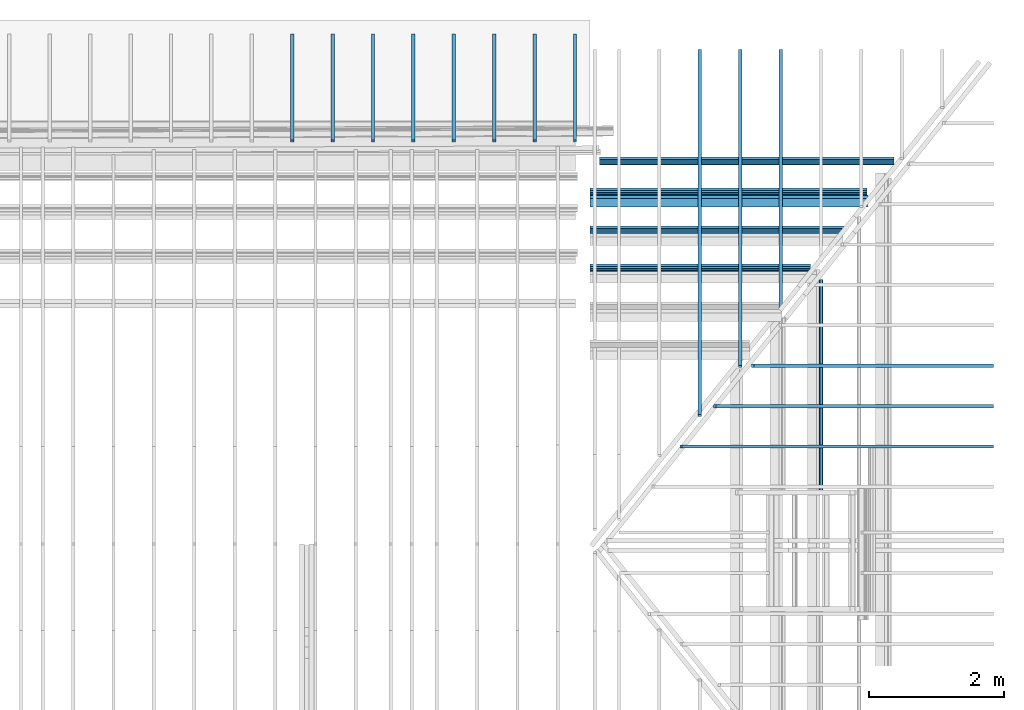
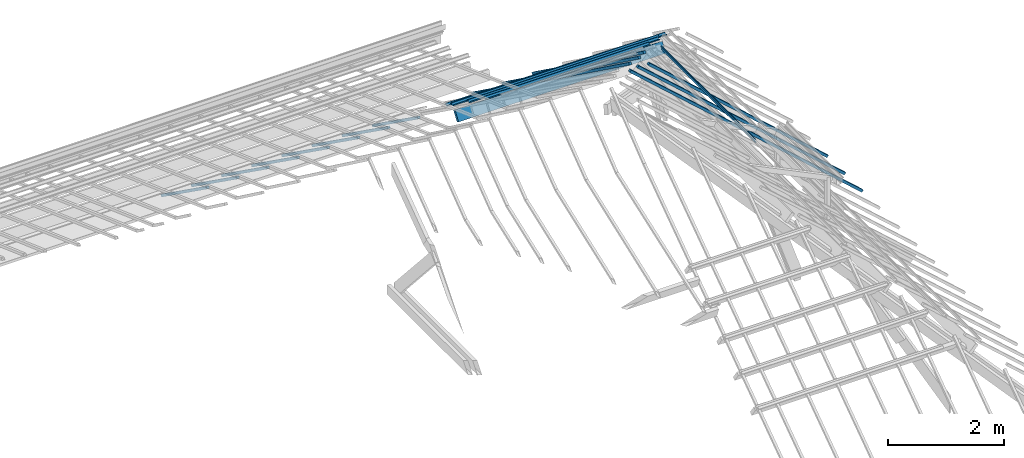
# One storey, part 15 of 18: 20 beams.
"""IFC2X3 building model written with IfcOpenShell, lengths in centimetres."""

from ifc_helpers import new_model, entity, si_unit, converted_unit, direction, frame, frame_2d, origin, place, context, subcontext, project, spatial, polyline, circle_curve, parameter, trimmed, segment, composite_curve, rectangle, outline, extrude, material, type_object, element, save


model = new_model("IFC2X3")

# Units and contexts
model_context = context("Model", 3, precision=0.001, world=frame((0.0, 0.0, 13090.0)), true_north=direction((6.123233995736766e-17, 1.0)))
body_context = subcontext(model_context, "Body", "Model", "MODEL_VIEW")
ifc_project = project(units=[si_unit("LENGTHUNIT", "METRE", prefix="CENTI"), si_unit("AREAUNIT", "SQUARE_METRE"), si_unit("VOLUMEUNIT", "CUBIC_METRE"), converted_unit("PLANEANGLEUNIT", "DEGREE", entity("IfcPlaneAngleMeasure", 0.017453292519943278), si_unit("PLANEANGLEUNIT", "RADIAN"), dimensions=[0, 0, 0, 0, 0, 0, 0])], contexts=[model_context])

# Site, building, storey
site_placement = place(None, origin())
site = spatial("IfcSite", under=ifc_project, at=site_placement, Name="Default", CompositionType="ELEMENT")
building_placement = place(site_placement, origin())
building = spatial("IfcBuilding", under=site, at=building_placement, Name="e 39 logements et 22 maisons relais", CompositionType="ELEMENT")
storey_placement = place(building_placement, frame((0.0, 0.0, 610.0)))
storey = spatial("IfcBuildingStorey", under=building, at=storey_placement, Name="R+2", CompositionType="ELEMENT", Elevation=609.9999999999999)

# Beams
ifc_material_1 = material(Name="Bois - Bois de construction de dimensions courantes")
beam_type_1 = type_object("IfcBeamType", Name="Poutre - Bois de construction de dimensions courantes:70 220", PredefinedType="BEAM")
beam_1_placement = place(storey_placement, frame((286.6348077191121, 494.96321085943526, -98.96422045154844)))
element("IfcBeam", 1, at=beam_1_placement, inside=storey, type_object=beam_type_1, material=ifc_material_1, Name="Poutre - Bois de construction de dimensions courantes:70 220", ObjectType="Poutre - Bois de construction de dimensions courantes:70 220", context=body_context, shape_type="SweptSolid", body=[
    extrude(rectangle(XDim=21.999999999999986, YDim=7.000000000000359, at=frame_2d((-4.218847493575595e-15, -1.3589129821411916e-13), x_axis=(0.0, 1.0))), frame((321.05529287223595, -6.309340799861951, -9.010672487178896), z_axis=(1.0, 0.0, 0.0), x_axis=(0.0, -0.8191520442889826, 0.5735764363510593)), (0.0, 0.0, 1.0), 412.6634002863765),
])
ifc_material_2 = material(Name="neuf")
beam_type_2 = type_object("IfcBeamType", Name="panne z:panne z", PredefinedType="BEAM")
beam_2_placement = place(storey_placement, frame((286.63480771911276, 447.28723734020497, -48.88615636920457)))
element("IfcBeam", 2, at=beam_2_placement, inside=storey, type_object=beam_type_2, material=ifc_material_2, Name="panne z:panne z", ObjectType="panne z:panne z", context=body_context, shape_type="SweptSolid", body=[
    extrude(outline(composite_curve([segment(polyline([(-4.599999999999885, -3.0), (-0.29999999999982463, -3.0)]), True, "CONTINUOUS"), segment(trimmed(circle_curve(frame_2d((-0.29999999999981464, -2.600000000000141), x_axis=(0.0, -1.0)), 0.3999999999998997), [parameter(0.0)], [parameter(90.00000000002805)], True, "PARAMETER"), True, "CONTINUOUS"), segment(polyline([(0.10000000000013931, -2.6000000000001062), (0.10000000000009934, 2.599999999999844)]), True, "CONTINUOUS"), segment(trimmed(circle_curve(frame_2d((0.3000000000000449, 2.599999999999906), x_axis=(-1.0, 0.0)), 0.2000000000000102), [parameter(270.00000000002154)], [parameter(0.0)], True, "PARAMETER"), False, "CONTINUOUS"), segment(polyline([(0.3000000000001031, 2.7999999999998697), (4.600000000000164, 2.799999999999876)]), True, "CONTINUOUS"), segment(trimmed(circle_curve(frame_2d((4.6, 2.59999999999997), x_axis=(0.0, 1.0)), 0.20000000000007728), [parameter(270.00000000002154)], [parameter(0.0)], True, "PARAMETER"), False, "CONTINUOUS"), segment(polyline([(4.800000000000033, 2.600000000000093), (4.800000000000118, 1.0)]), True, "CONTINUOUS"), segment(polyline([(4.800000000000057, 1.0), (5.0, 1.0)]), True, "CONTINUOUS"), segment(polyline([(5.0, 1.0), (5.0, 2.599999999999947)]), True, "CONTINUOUS"), segment(trimmed(circle_curve(frame_2d((4.60000000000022, 2.600000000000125), x_axis=(1.0, 0.0)), 0.39999999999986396), [parameter(0.0)], [parameter(90.00000000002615)], True, "PARAMETER"), True, "CONTINUOUS"), segment(polyline([(4.600000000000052, 3.0), (0.30000000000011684, 3.0)]), True, "CONTINUOUS"), segment(trimmed(circle_curve(frame_2d((0.2999999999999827, 2.5999999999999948), x_axis=(0.0, 1.0)), 0.3999999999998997), [parameter(0.0)], [parameter(90.00000000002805)], True, "PARAMETER"), True, "CONTINUOUS"), segment(polyline([(-0.10000000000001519, 2.5999999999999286), (-0.0999999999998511, -2.600000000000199)]), True, "CONTINUOUS"), segment(trimmed(circle_curve(frame_2d((-0.2999999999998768, -2.600000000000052), x_axis=(1.0, 0.0)), 0.2000000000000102), [parameter(270.00000000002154)], [parameter(0.0)], True, "PARAMETER"), False, "CONTINUOUS"), segment(polyline([(-0.299999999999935, -2.800000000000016), (-4.599999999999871, -2.8000000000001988)]), True, "CONTINUOUS"), segment(trimmed(circle_curve(frame_2d((-4.5999999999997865, -2.600000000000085), x_axis=(0.0, -1.0)), 0.20000000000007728), [parameter(270.00000000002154)], [parameter(0.0)], True, "PARAMETER"), False, "CONTINUOUS"), segment(polyline([(-4.79999999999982, -2.600000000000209), (-4.799999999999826, -1.0)]), True, "CONTINUOUS"), segment(polyline([(-4.799999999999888, -1.0), (-5.0, -1.0)]), True, "CONTINUOUS"), segment(polyline([(-5.0, -1.0), (-5.0, -2.6000000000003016)]), True, "CONTINUOUS"), segment(trimmed(circle_curve(frame_2d((-4.600000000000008, -2.60000000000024), x_axis=(-1.0, 0.0)), 0.39999999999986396), [parameter(0.0)], [parameter(90.00000000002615)], True, "PARAMETER"), True, "CONTINUOUS")], self_intersect=False)), frame((321.0552928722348, -1.538580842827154, -2.197321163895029), z_axis=(1.0, 0.0, 0.0), x_axis=(0.0, -0.8191520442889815, 0.5735764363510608)), (0.0, 0.0, 1.0), 378.0883845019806),
])
beam_3_placement = place(storey_placement, frame((286.63480771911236, 391.38355386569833, -8.510046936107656)))
element("IfcBeam", 3, at=beam_3_placement, inside=storey, type_object=beam_type_2, material=ifc_material_2, Name="panne z:panne z", ObjectType="panne z:panne z", context=body_context, shape_type="SweptSolid", body=[
    extrude(outline(composite_curve([segment(polyline([(-4.599999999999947, -3.0), (-0.2999999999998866, -3.0)]), True, "CONTINUOUS"), segment(trimmed(circle_curve(frame_2d((-0.29999999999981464, -2.6000000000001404), x_axis=(0.0, -1.0)), 0.3999999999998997), [parameter(0.0)], [parameter(90.00000000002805)], True, "PARAMETER"), True, "CONTINUOUS"), segment(polyline([(0.10000000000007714, -2.6000000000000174), (0.10000000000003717, 2.599999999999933)]), True, "CONTINUOUS"), segment(trimmed(circle_curve(frame_2d((0.3000000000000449, 2.5999999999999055), x_axis=(-1.0, 0.0)), 0.2000000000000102), [parameter(270.00000000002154)], [parameter(0.0)], True, "PARAMETER"), False, "CONTINUOUS"), segment(polyline([(0.3000000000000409, 2.799999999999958), (4.600000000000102, 2.7999999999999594)]), True, "CONTINUOUS"), segment(trimmed(circle_curve(frame_2d((4.6, 2.599999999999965), x_axis=(0.0, 1.0)), 0.20000000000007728), [parameter(270.00000000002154)], [parameter(0.0)], True, "PARAMETER"), False, "CONTINUOUS"), segment(polyline([(4.7999999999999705, 2.6000000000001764), (4.800000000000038, 1.0)]), True, "CONTINUOUS"), segment(polyline([(4.7999999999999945, 1.0), (5.0, 1.0)]), True, "CONTINUOUS"), segment(polyline([(5.0, 1.0), (5.0, 2.600000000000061)]), True, "CONTINUOUS"), segment(trimmed(circle_curve(frame_2d((4.60000000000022, 2.6000000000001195), x_axis=(1.0, 0.0)), 0.39999999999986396), [parameter(0.0)], [parameter(90.00000000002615)], True, "PARAMETER"), True, "CONTINUOUS"), segment(polyline([(4.599999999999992, 3.0), (0.30000000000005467, 3.0)]), True, "CONTINUOUS"), segment(trimmed(circle_curve(frame_2d((0.2999999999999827, 2.5999999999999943), x_axis=(0.0, 1.0)), 0.3999999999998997), [parameter(0.0)], [parameter(90.00000000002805)], True, "PARAMETER"), True, "CONTINUOUS"), segment(polyline([(-0.10000000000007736, 2.600000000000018), (-0.09999999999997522, -2.6000000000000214)]), True, "CONTINUOUS"), segment(trimmed(circle_curve(frame_2d((-0.2999999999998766, -2.600000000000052), x_axis=(1.0, 0.0)), 0.2000000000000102), [parameter(270.00000000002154)], [parameter(0.0)], True, "PARAMETER"), False, "CONTINUOUS"), segment(polyline([(-0.29999999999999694, -2.799999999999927), (-4.599999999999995, -2.8000000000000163)]), True, "CONTINUOUS"), segment(trimmed(circle_curve(frame_2d((-4.5999999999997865, -2.60000000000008), x_axis=(0.0, -1.0)), 0.20000000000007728), [parameter(270.00000000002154)], [parameter(0.0)], True, "PARAMETER"), False, "CONTINUOUS"), segment(polyline([(-4.799999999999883, -2.6000000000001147), (-4.7999999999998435, -1.0)]), True, "CONTINUOUS"), segment(polyline([(-4.799999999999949, -1.0), (-5.0, -1.0)]), True, "CONTINUOUS"), segment(polyline([(-5.0, -1.0), (-5.0, -2.6000000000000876)]), True, "CONTINUOUS"), segment(trimmed(circle_curve(frame_2d((-4.600000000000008, -2.6000000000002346), x_axis=(-1.0, 0.0)), 0.39999999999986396), [parameter(0.0)], [parameter(90.00000000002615)], True, "PARAMETER"), True, "CONTINUOUS")], self_intersect=False)), frame((321.0552928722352, -1.5385808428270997, -2.197321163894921), z_axis=(1.0, 0.0, 0.0), x_axis=(0.0, -0.8191520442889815, 0.5735764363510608)), (0.0, 0.0, 1.0), 327.6106052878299),
])
beam_4_placement = place(storey_placement, frame((286.63480771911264, 504.2030453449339, -89.99326684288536)))
element("IfcBeam", 4, at=beam_4_placement, inside=storey, type_object=beam_type_2, material=ifc_material_2, Name="panne z:panne z", ObjectType="panne z:panne z", context=body_context, shape_type="SweptSolid", body=[
    extrude(outline(composite_curve([segment(polyline([(-4.599999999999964, -3.0), (-0.29999999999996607, -3.0)]), True, "CONTINUOUS"), segment(trimmed(circle_curve(frame_2d((-0.2999999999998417, -2.5999999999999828), x_axis=(0.0, -1.0)), 0.39999999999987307), [parameter(0.0)], [parameter(90.00000000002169)], True, "PARAMETER"), True, "CONTINUOUS"), segment(polyline([(0.10000000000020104, -2.599999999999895), (0.10000000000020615, 2.6000000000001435)]), True, "CONTINUOUS"), segment(trimmed(circle_curve(frame_2d((0.30000000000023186, 2.5999999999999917), x_axis=(-1.0, 0.0)), 0.20000000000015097), [parameter(270.0000000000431)], [parameter(0.0)], True, "PARAMETER"), False, "CONTINUOUS"), segment(polyline([(0.30000000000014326, 2.7999999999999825), (4.600000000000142, 2.799999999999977)]), True, "CONTINUOUS"), segment(trimmed(circle_curve(frame_2d((4.60000000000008, 2.600000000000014), x_axis=(0.0, 1.0)), 0.20000000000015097), [parameter(270.0000000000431)], [parameter(0.0)], True, "PARAMETER"), False, "CONTINUOUS"), segment(polyline([(4.800000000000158, 2.6000000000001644), (4.800000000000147, 1.0)]), True, "CONTINUOUS"), segment(polyline([(4.800000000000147, 1.0), (5.0, 1.0)]), True, "CONTINUOUS"), segment(polyline([(5.0, 1.0), (5.0, 2.6000000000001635)]), True, "CONTINUOUS"), segment(trimmed(circle_curve(frame_2d((4.600000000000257, 2.600000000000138), x_axis=(1.0, 0.0)), 0.399999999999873), [parameter(0.0)], [parameter(90.00000000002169)], True, "PARAMETER"), True, "CONTINUOUS"), segment(polyline([(4.600000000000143, 3.0), (0.30000000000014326, 3.0)]), True, "CONTINUOUS"), segment(trimmed(circle_curve(frame_2d((0.3000000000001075, 2.6000000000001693), x_axis=(0.0, 1.0)), 0.39999999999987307), [parameter(0.0)], [parameter(90.00000000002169)], True, "PARAMETER"), True, "CONTINUOUS"), segment(polyline([(-0.09999999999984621, 2.600000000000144), (-0.09999999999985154, -2.599999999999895)]), True, "CONTINUOUS"), segment(trimmed(circle_curve(frame_2d((-0.29999999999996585, -2.599999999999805), x_axis=(1.0, 0.0)), 0.20000000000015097), [parameter(270.0000000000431)], [parameter(0.0)], True, "PARAMETER"), False, "CONTINUOUS"), segment(polyline([(-0.29999999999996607, -2.7999999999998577), (-4.599999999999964, -2.7999999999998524)]), True, "CONTINUOUS"), segment(trimmed(circle_curve(frame_2d((-4.599999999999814, -2.5999999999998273), x_axis=(0.0, -1.0)), 0.20000000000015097), [parameter(270.0000000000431)], [parameter(0.0)], True, "PARAMETER"), False, "CONTINUOUS"), segment(polyline([(-4.7999999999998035, -2.5999999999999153), (-4.799999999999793, -1.0)]), True, "CONTINUOUS"), segment(polyline([(-4.799999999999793, -1.0), (-5.0, -1.0)]), True, "CONTINUOUS"), segment(polyline([(-5.0, -1.0), (-5.0, -2.5999999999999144)]), True, "CONTINUOUS"), segment(trimmed(circle_curve(frame_2d((-4.599999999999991, -2.5999999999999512), x_axis=(-1.0, 0.0)), 0.399999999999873), [parameter(0.0)], [parameter(90.00000000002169)], True, "PARAMETER"), True, "CONTINUOUS")], self_intersect=False)), frame((321.0552928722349, -1.5385808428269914, -2.1973211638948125), z_axis=(1.0, 0.0, 0.0), x_axis=(0.0, -0.8191520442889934, 0.5735764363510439)), (0.0, 0.0, 1.0), 411.4315047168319),
])
beam_5_placement = place(storey_placement, frame((286.63480771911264, 549.7207597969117, -121.30000000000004), z_axis=(0.006950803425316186, 0.0, 0.9999758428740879), x_axis=(0.9999758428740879, 0.0, -0.006950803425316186)))
element("IfcBeam", 5, at=beam_5_placement, inside=storey, type_object=beam_type_2, material=ifc_material_2, Name="panne z:panne z", ObjectType="panne z:panne z", context=body_context, shape_type="SweptSolid", body=[
    extrude(outline(composite_curve([segment(polyline([(-4.600000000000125, -3.0), (-0.3000000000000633, -3.0)]), True, "CONTINUOUS"), segment(trimmed(circle_curve(frame_2d((-0.29999999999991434, -2.600000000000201), x_axis=(0.0, -1.0)), 0.39999999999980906), [parameter(0.0)], [parameter(90.00000000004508)], True, "PARAMETER"), True, "CONTINUOUS"), segment(polyline([(0.10000000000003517, -2.599999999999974), (0.09999999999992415, 2.6000000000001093)]), True, "CONTINUOUS"), segment(trimmed(circle_curve(frame_2d((0.29999999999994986, 2.5999999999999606), x_axis=(-1.0, 0.0)), 0.20000000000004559), [parameter(269.9999999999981)], [parameter(0.0)], True, "PARAMETER"), False, "CONTINUOUS"), segment(polyline([(0.29999999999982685, 2.7999999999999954), (4.599999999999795, 2.8000000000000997)]), True, "CONTINUOUS"), segment(trimmed(circle_curve(frame_2d((4.599999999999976, 2.600000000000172), x_axis=(0.0, 1.0)), 0.1999999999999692), [parameter(269.9999999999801)], [parameter(0.0)], True, "PARAMETER"), False, "CONTINUOUS"), segment(polyline([(4.799999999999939, 2.6000000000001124), (4.800000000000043, 1.0)]), True, "CONTINUOUS"), segment(polyline([(4.7999999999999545, 1.0), (5.0, 1.0)]), True, "CONTINUOUS"), segment(polyline([(5.0, 1.0), (5.0, 2.6000000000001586)]), True, "CONTINUOUS"), segment(trimmed(circle_curve(frame_2d((4.599999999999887, 2.6000000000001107), x_axis=(1.0, 0.0)), 0.3999999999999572), [parameter(0.0)], [parameter(90.00000000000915)], True, "PARAMETER"), True, "CONTINUOUS"), segment(polyline([(4.599999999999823, 3.0), (0.29999999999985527, 3.0)]), True, "CONTINUOUS"), segment(trimmed(circle_curve(frame_2d((0.2999999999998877, 2.6000000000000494), x_axis=(0.0, 1.0)), 0.3999999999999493), [parameter(0.0)], [parameter(90.00000000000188)], True, "PARAMETER"), True, "CONTINUOUS"), segment(polyline([(-0.10000000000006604, 2.600000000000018), (-0.09999999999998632, -2.600000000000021)]), True, "CONTINUOUS"), segment(trimmed(circle_curve(frame_2d((-0.30000000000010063, -2.599999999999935), x_axis=(1.0, 0.0)), 0.20000000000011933), [parameter(270.0000000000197)], [parameter(0.0)], True, "PARAMETER"), False, "CONTINUOUS"), segment(polyline([(-0.30000000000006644, -2.800000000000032), (-4.600000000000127, -2.800000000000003)]), True, "CONTINUOUS"), segment(trimmed(circle_curve(frame_2d((-4.600000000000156, -2.6000000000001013), x_axis=(0.0, -1.0)), 0.19999999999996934), [parameter(269.9999999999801)], [parameter(0.0)], True, "PARAMETER"), False, "CONTINUOUS"), segment(polyline([(-4.800000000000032, -2.59999999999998), (-4.800000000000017, -1.0)]), True, "CONTINUOUS"), segment(polyline([(-4.800000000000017, -1.0), (-5.0, -1.0)]), True, "CONTINUOUS"), segment(polyline([(-5.0, -1.0), (-5.0, -2.599999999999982)]), True, "CONTINUOUS"), segment(trimmed(circle_curve(frame_2d((-4.600000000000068, -2.6000000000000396), x_axis=(-1.0, 0.0)), 0.3999999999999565), [parameter(0.0)], [parameter(90.00000000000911)], True, "PARAMETER"), True, "CONTINUOUS")], self_intersect=False)), frame((335.37561805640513, -1.538580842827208, -2.1973211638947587), z_axis=(1.0, 0.0, 0.0), x_axis=(0.0, -0.819152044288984, 0.5735764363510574)), (0.0, 0.0, 1.0), 436.9078128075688),
])
beam_6_placement = place(storey_placement, frame((963.234889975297, 719.1076677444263, -1.0400346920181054), z_axis=(0.0, 0.0, 1.0), x_axis=(0.0, -1.0, 0.0)))
element("IfcBeam", 6, at=beam_6_placement, inside=storey, type_object=beam_type_2, material=ifc_material_2, Name="panne z:panne z", ObjectType="panne z:panne z", context=body_context, shape_type="SweptSolid", body=[
    extrude(outline(composite_curve([segment(polyline([(0.3000000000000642, -3.0), (4.60000000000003, -3.0)]), True, "CONTINUOUS"), segment(trimmed(circle_curve(frame_2d((4.600000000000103, -2.6000000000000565), x_axis=(0.0, -1.0)), 0.399999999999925), [parameter(0.0)], [parameter(90.000000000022)], True, "PARAMETER"), True, "CONTINUOUS"), segment(polyline([(5.0, -2.600000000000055), (5.0, -1.0)]), True, "CONTINUOUS"), segment(polyline([(5.0, -1.0), (4.800000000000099, -1.0)]), True, "CONTINUOUS"), segment(polyline([(4.800000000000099, -1.0), (4.800000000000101, -2.5999999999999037)]), True, "CONTINUOUS"), segment(trimmed(circle_curve(frame_2d((4.599999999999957, -2.5999999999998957), x_axis=(1.0, 0.0)), 0.20000000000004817), [parameter(270.0000000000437)], [parameter(0.0)], True, "PARAMETER"), False, "CONTINUOUS"), segment(polyline([(4.600000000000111, -2.799999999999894), (0.300000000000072, -2.799999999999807)]), True, "CONTINUOUS"), segment(trimmed(circle_curve(frame_2d((0.30000000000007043, -2.5999999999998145), x_axis=(0.0, -1.0)), 0.2000000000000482), [parameter(270.0000000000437)], [parameter(0.0)], True, "PARAMETER"), False, "CONTINUOUS"), segment(polyline([(0.10000000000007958, -2.5999999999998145), (0.1000000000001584, 2.600000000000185)]), True, "CONTINUOUS"), segment(trimmed(circle_curve(frame_2d((-0.29999999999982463, 2.6000000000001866), x_axis=(1.0, 0.0)), 0.399999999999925), [parameter(0.0)], [parameter(90.000000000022)], True, "PARAMETER"), True, "CONTINUOUS"), segment(polyline([(-0.29999999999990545, 3.0), (-4.599999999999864, 3.0)]), True, "CONTINUOUS"), segment(trimmed(circle_curve(frame_2d((-4.600000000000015, 2.6000000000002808), x_axis=(0.0, 1.0)), 0.399999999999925), [parameter(0.0)], [parameter(90.000000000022)], True, "PARAMETER"), True, "CONTINUOUS"), segment(polyline([(-5.0, 2.6000000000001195), (-5.0, 1.0)]), True, "CONTINUOUS"), segment(polyline([(-5.0, 1.0), (-4.79999999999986, 1.0)]), True, "CONTINUOUS"), segment(polyline([(-4.79999999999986, 1.0), (-4.799999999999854, 2.600000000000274)]), True, "CONTINUOUS"), segment(trimmed(circle_curve(frame_2d((-4.59999999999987, 2.6000000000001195), x_axis=(-1.0, 0.0)), 0.20000000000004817), [parameter(270.0000000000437)], [parameter(0.0)], True, "PARAMETER"), False, "CONTINUOUS"), segment(polyline([(-4.599999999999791, 2.8000000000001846), (-0.29999999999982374, 2.800000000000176)]), True, "CONTINUOUS"), segment(trimmed(circle_curve(frame_2d((-0.29999999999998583, 2.6000000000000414), x_axis=(0.0, 1.0)), 0.2000000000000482), [parameter(270.0000000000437)], [parameter(0.0)], True, "PARAMETER"), False, "CONTINUOUS"), segment(polyline([(-0.09999999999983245, 2.6000000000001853), (-0.09999999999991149, -2.599999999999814)]), True, "CONTINUOUS"), segment(trimmed(circle_curve(frame_2d((0.29999999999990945, -2.5999999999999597), x_axis=(-1.0, 0.0)), 0.399999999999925), [parameter(0.0)], [parameter(90.000000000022)], True, "PARAMETER"), True, "CONTINUOUS")], self_intersect=False)), frame((346.74261903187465, -12.500988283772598, -13.883754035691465), z_axis=(1.0, 0.0, 0.0), x_axis=(0.0, -0.7431448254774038, 0.6691306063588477)), (0.0, 0.0, 1.0), 320.1908872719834),
])
beam_type_3 = type_object("IfcBeamType", Name="Poutre - Bois de construction de dimensions courantes:50 50", PredefinedType="BEAM")
beam_7_placement = place(storey_placement, frame((165.21802945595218, 595.7154312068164, -82.26436383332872), z_axis=(0.0, 0.5804591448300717, 0.814289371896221), x_axis=(0.0, -0.814289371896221, 0.5804591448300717)))
element("IfcBeam", 7, at=beam_7_placement, inside=storey, type_object=beam_type_3, material=ifc_material_1, Name="Poutre - Bois de construction de dimensions courantes:50 50", ObjectType="Poutre - Bois de construction de dimensions courantes:50 50", context=body_context, shape_type="SweptSolid", body=[
    extrude(rectangle(XDim=5.000000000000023, YDim=5.000000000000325, at=frame_2d((0.0, -1.354472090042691e-14), x_axis=(1.0, 0.0))), frame((-222.18364305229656, 0.0, -71.50000000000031), z_axis=(1.0, 0.0, 0.0), x_axis=(0.0, 0.0, -1.0)), (0.0, 0.0, 1.0), 193.3699514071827),
])
beam_8_placement = place(storey_placement, frame((225.21802945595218, 595.7154312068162, -82.26436383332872), z_axis=(0.0, 0.5804591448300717, 0.814289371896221), x_axis=(0.0, -0.814289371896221, 0.5804591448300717)))
element("IfcBeam", 8, at=beam_8_placement, inside=storey, type_object=beam_type_3, material=ifc_material_1, Name="Poutre - Bois de construction de dimensions courantes:50 50", ObjectType="Poutre - Bois de construction de dimensions courantes:50 50", context=body_context, shape_type="SweptSolid", body=[
    extrude(rectangle(XDim=5.000000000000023, YDim=5.000000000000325, at=frame_2d((0.0, -1.354472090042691e-14), x_axis=(1.0, 0.0))), frame((-222.18364305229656, 0.0, -71.5000000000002), z_axis=(1.0, 0.0, 0.0), x_axis=(0.0, 0.0, -1.0)), (0.0, 0.0, 1.0), 193.3699514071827),
])
beam_9_placement = place(storey_placement, frame((285.2180294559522, 595.715431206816, -82.26436383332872), z_axis=(0.0, 0.5804591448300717, 0.814289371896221), x_axis=(0.0, -0.814289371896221, 0.5804591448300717)))
element("IfcBeam", 9, at=beam_9_placement, inside=storey, type_object=beam_type_3, material=ifc_material_1, Name="Poutre - Bois de construction de dimensions courantes:50 50", ObjectType="Poutre - Bois de construction de dimensions courantes:50 50", context=body_context, shape_type="SweptSolid", body=[
    extrude(rectangle(XDim=5.000000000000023, YDim=5.000000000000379, at=frame_2d((0.0, 2.708944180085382e-14), x_axis=(1.0, 0.0))), frame((-222.1836430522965, 0.0, -71.50000000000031), z_axis=(1.0, 0.0, 0.0), x_axis=(0.0, 0.0, -1.0)), (0.0, 0.0, 1.0), 193.3699514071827),
])
beam_10_placement = place(storey_placement, frame((345.2180294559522, 595.7154312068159, -82.26436383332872), z_axis=(0.0, 0.5804591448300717, 0.814289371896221), x_axis=(0.0, -0.814289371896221, 0.5804591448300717)))
element("IfcBeam", 10, at=beam_10_placement, inside=storey, type_object=beam_type_3, material=ifc_material_1, Name="Poutre - Bois de construction de dimensions courantes:50 50", ObjectType="Poutre - Bois de construction de dimensions courantes:50 50", context=body_context, shape_type="SweptSolid", body=[
    extrude(rectangle(XDim=4.999999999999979, YDim=5.000000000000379, at=frame_2d((-2.19824158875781e-14, 2.708944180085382e-14), x_axis=(1.0, 0.0))), frame((-222.18364305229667, 0.0, -71.50000000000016), z_axis=(1.0, 0.0, 0.0), x_axis=(0.0, 0.0, -1.0)), (0.0, 0.0, 1.0), 193.3699514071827),
])
beam_11_placement = place(storey_placement, frame((405.2180294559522, 595.7154312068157, -82.26436383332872), z_axis=(0.0, 0.5804591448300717, 0.814289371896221), x_axis=(0.0, -0.814289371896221, 0.5804591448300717)))
element("IfcBeam", 11, at=beam_11_placement, inside=storey, type_object=beam_type_3, material=ifc_material_1, Name="Poutre - Bois de construction de dimensions courantes:50 50", ObjectType="Poutre - Bois de construction de dimensions courantes:50 50", context=body_context, shape_type="SweptSolid", body=[
    extrude(rectangle(XDim=4.999999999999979, YDim=5.000000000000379, at=frame_2d((-2.19824158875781e-14, 2.708944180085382e-14), x_axis=(1.0, 0.0))), frame((-222.1836430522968, 0.0, -71.5000000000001), z_axis=(1.0, 0.0, 0.0), x_axis=(0.0, 0.0, -1.0)), (0.0, 0.0, 1.0), 193.3699514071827),
])
beam_12_placement = place(storey_placement, frame((465.2180294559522, 595.7154312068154, -82.26436383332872), z_axis=(0.0, 0.5804591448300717, 0.814289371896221), x_axis=(0.0, -0.814289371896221, 0.5804591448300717)))
element("IfcBeam", 12, at=beam_12_placement, inside=storey, type_object=beam_type_3, material=ifc_material_1, Name="Poutre - Bois de construction de dimensions courantes:50 50", ObjectType="Poutre - Bois de construction de dimensions courantes:50 50", context=body_context, shape_type="SweptSolid", body=[
    extrude(rectangle(XDim=4.999999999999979, YDim=5.000000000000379, at=frame_2d((-2.19824158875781e-14, 2.708944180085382e-14), x_axis=(1.0, 0.0))), frame((-222.18364305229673, 0.0, -71.5000000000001), z_axis=(1.0, 0.0, 0.0), x_axis=(0.0, 0.0, -1.0)), (0.0, 0.0, 1.0), 193.3699514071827),
])
beam_13_placement = place(storey_placement, frame((525.2180294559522, 595.7154312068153, -82.26436383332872), z_axis=(0.0, 0.5804591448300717, 0.814289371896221), x_axis=(0.0, -0.814289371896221, 0.5804591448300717)))
element("IfcBeam", 13, at=beam_13_placement, inside=storey, type_object=beam_type_3, material=ifc_material_1, Name="Poutre - Bois de construction de dimensions courantes:50 50", ObjectType="Poutre - Bois de construction de dimensions courantes:50 50", context=body_context, shape_type="SweptSolid", body=[
    extrude(rectangle(XDim=4.999999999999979, YDim=5.000000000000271, at=frame_2d((-2.19824158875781e-14, -1.0835776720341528e-13), x_axis=(1.0, 0.0))), frame((-222.18364305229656, 0.0, -71.5000000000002), z_axis=(1.0, 0.0, 0.0), x_axis=(0.0, 0.0, -1.0)), (0.0, 0.0, 1.0), 193.3699514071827),
])
beam_14_placement = place(storey_placement, frame((585.2180294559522, 595.7154312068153, -82.26436383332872), z_axis=(0.0, 0.5804591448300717, 0.814289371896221), x_axis=(0.0, -0.814289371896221, 0.5804591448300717)))
element("IfcBeam", 14, at=beam_14_placement, inside=storey, type_object=beam_type_3, material=ifc_material_1, Name="Poutre - Bois de construction de dimensions courantes:50 50", ObjectType="Poutre - Bois de construction de dimensions courantes:50 50", context=body_context, shape_type="SweptSolid", body=[
    extrude(rectangle(XDim=4.999999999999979, YDim=5.000000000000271, at=frame_2d((-2.19824158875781e-14, -1.0835776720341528e-13), x_axis=(1.0, 0.0))), frame((-222.18364305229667, 0.0, -71.5000000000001), z_axis=(1.0, 0.0, 0.0), x_axis=(0.0, 0.0, -1.0)), (0.0, 0.0, 1.0), 193.3699514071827),
])
beam_15_placement = place(storey_placement, frame((1106.4398392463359, 124.09105260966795, -51.09700593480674), z_axis=(0.6675793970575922, 0.0, 0.7445386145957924), x_axis=(-0.7445386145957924, 0.0, 0.6675793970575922)))
element("IfcBeam", 15, at=beam_15_placement, inside=storey, type_object=beam_type_3, material=ifc_material_1, Name="Poutre - Bois de construction de dimensions courantes:50 50", ObjectType="Poutre - Bois de construction de dimensions courantes:50 50", context=body_context, shape_type="SweptSolid", body=[
    extrude(rectangle(XDim=4.999999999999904, YDim=5.000000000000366, at=frame_2d((-2.020605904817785e-14, -6.8833827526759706e-15), x_axis=(1.0, 0.0))), frame((-208.06330346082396, 0.0, -84.50000000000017), z_axis=(1.0, 0.0, 0.0), x_axis=(0.0, 0.0, -1.0)), (0.0, 0.0, 1.0), 620.7305020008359),
])
beam_16_placement = place(storey_placement, frame((1106.4398392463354, 184.09105260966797, -51.09700593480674), z_axis=(0.6675793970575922, 0.0, 0.7445386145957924), x_axis=(-0.7445386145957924, 0.0, 0.6675793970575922)))
element("IfcBeam", 16, at=beam_16_placement, inside=storey, type_object=beam_type_3, material=ifc_material_1, Name="Poutre - Bois de construction de dimensions courantes:50 50", ObjectType="Poutre - Bois de construction de dimensions courantes:50 50", context=body_context, shape_type="SweptSolid", body=[
    extrude(rectangle(XDim=5.000000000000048, YDim=5.000000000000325, at=frame_2d((-1.3300471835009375e-13, 0.0), x_axis=(1.0, 0.0))), frame((-208.06330346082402, 0.0, -84.50000000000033), z_axis=(1.0, 0.0, 0.0), x_axis=(0.0, 0.0, -1.0)), (0.0, 0.0, 1.0), 553.4823968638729),
])
beam_17_placement = place(storey_placement, frame((1106.4398392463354, 244.091052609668, -51.09700593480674), z_axis=(0.6675793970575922, 0.0, 0.7445386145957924), x_axis=(-0.7445386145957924, 0.0, 0.6675793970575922)))
element("IfcBeam", 17, at=beam_17_placement, inside=storey, type_object=beam_type_3, material=ifc_material_1, Name="Poutre - Bois de construction de dimensions courantes:50 50", ObjectType="Poutre - Bois de construction de dimensions courantes:50 50", context=body_context, shape_type="SweptSolid", body=[
    extrude(rectangle(XDim=5.000000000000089, YDim=5.000000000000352, at=frame_2d((-1.127986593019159e-13, 2.708944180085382e-14), x_axis=(1.0, 0.0))), frame((-208.06330346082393, 0.0, -84.50000000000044), z_axis=(1.0, 0.0, 0.0), x_axis=(0.0, 0.0, -1.0)), (0.0, 0.0, 1.0), 477.95196514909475),
])
beam_18_placement = place(storey_placement, frame((770.5865180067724, 597.2297519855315, -81.5432023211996), z_axis=(0.0, 0.5855022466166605, 0.8106707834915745), x_axis=(0.0, -0.8106707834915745, 0.5855022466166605)))
element("IfcBeam", 18, at=beam_18_placement, inside=storey, type_object=beam_type_3, material=ifc_material_1, Name="Poutre - Bois de construction de dimensions courantes:50 50", ObjectType="Poutre - Bois de construction de dimensions courantes:50 50", context=body_context, shape_type="SweptSolid", body=[
    extrude(rectangle(XDim=5.000000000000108, YDim=5.000000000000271, at=frame_2d((2.1760371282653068e-14, -5.417888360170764e-14), x_axis=(1.0, 0.0))), frame((-193.83217267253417, 0.0, -71.50000000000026), z_axis=(1.0, 0.0, 0.0), x_axis=(0.0, 0.0, -1.0)), (0.0, 0.0, 1.0), 668.803311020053),
])
beam_19_placement = place(storey_placement, frame((830.5865180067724, 597.2297519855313, -81.5432023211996), z_axis=(0.0, 0.5855022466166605, 0.8106707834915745), x_axis=(0.0, -0.8106707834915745, 0.5855022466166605)))
element("IfcBeam", 19, at=beam_19_placement, inside=storey, type_object=beam_type_3, material=ifc_material_1, Name="Poutre - Bois de construction de dimensions courantes:50 50", ObjectType="Poutre - Bois de construction de dimensions courantes:50 50", context=body_context, shape_type="SweptSolid", body=[
    extrude(rectangle(XDim=5.000000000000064, YDim=5.000000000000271, at=frame_2d((4.374278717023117e-14, 5.417888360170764e-14), x_axis=(1.0, 0.0))), frame((-193.8321726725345, 0.0, -71.5000000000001), z_axis=(1.0, 0.0, 0.0), x_axis=(0.0, 0.0, -1.0)), (0.0, 0.0, 1.0), 579.7054029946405),
])
beam_20_placement = place(storey_placement, frame((890.5865180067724, 597.229751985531, -81.5432023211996), z_axis=(0.0, 0.5855022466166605, 0.8106707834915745), x_axis=(0.0, -0.8106707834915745, 0.5855022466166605)))
element("IfcBeam", 20, at=beam_20_placement, inside=storey, type_object=beam_type_3, material=ifc_material_1, Name="Poutre - Bois de construction de dimensions courantes:50 50", ObjectType="Poutre - Bois de construction de dimensions courantes:50 50", context=body_context, shape_type="SweptSolid", body=[
    extrude(rectangle(XDim=5.0000000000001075, YDim=5.000000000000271, at=frame_2d((0.0, 1.6253665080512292e-13), x_axis=(1.0, 0.0))), frame((-193.8321726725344, 0.0, -71.50000000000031), z_axis=(1.0, 0.0, 0.0), x_axis=(0.0, 0.0, -1.0)), (0.0, 0.0, 1.0), 473.37375134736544),
])

save(model, "model.ifc")
